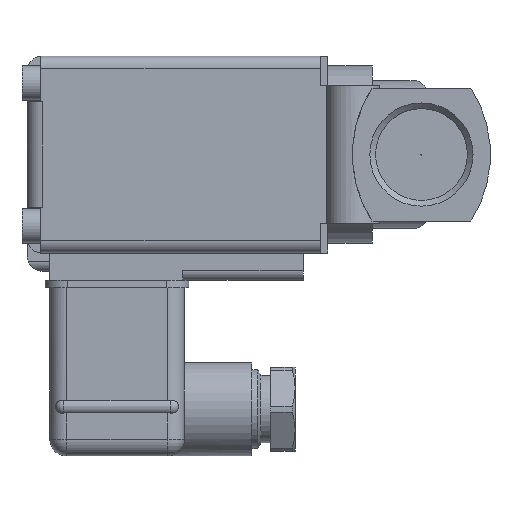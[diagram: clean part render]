
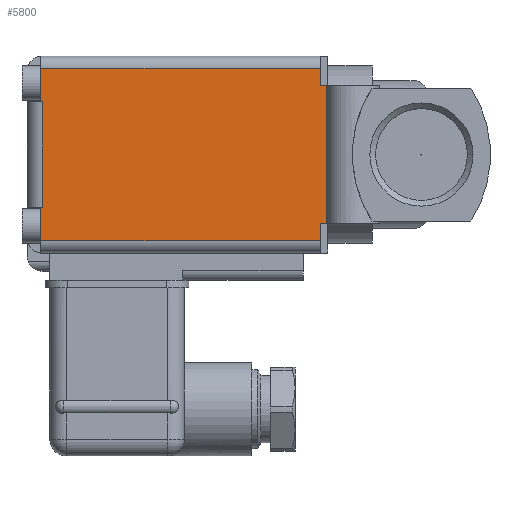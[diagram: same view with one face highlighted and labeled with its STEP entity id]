
A CAD part, left-side view. The second image highlights one B-rep face of the part: STEP entity #5800.
In plain terms, the highlighted planar face has unit normal (-1, 0, 0).
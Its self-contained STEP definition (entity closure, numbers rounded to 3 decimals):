
#466=ORIENTED_EDGE('',*,*,#1673,.T.);
#467=ORIENTED_EDGE('',*,*,#1674,.T.);
#468=ORIENTED_EDGE('',*,*,#1675,.T.);
#469=ORIENTED_EDGE('',*,*,#1676,.T.);
#470=ORIENTED_EDGE('',*,*,#1677,.F.);
#471=ORIENTED_EDGE('',*,*,#1678,.T.);
#472=ORIENTED_EDGE('',*,*,#1679,.F.);
#473=ORIENTED_EDGE('',*,*,#1680,.F.);
#474=ORIENTED_EDGE('',*,*,#1681,.F.);
#475=ORIENTED_EDGE('',*,*,#1682,.F.);
#476=ORIENTED_EDGE('',*,*,#1683,.F.);
#477=ORIENTED_EDGE('',*,*,#1684,.F.);
#1673=EDGE_CURVE('',#2263,#2264,#2633,.T.);
#1674=EDGE_CURVE('',#2264,#2265,#2634,.T.);
#1675=EDGE_CURVE('',#2265,#2266,#2635,.T.);
#1676=EDGE_CURVE('',#2266,#2267,#2636,.T.);
#1677=EDGE_CURVE('',#2268,#2267,#2637,.T.);
#1678=EDGE_CURVE('',#2268,#2269,#2638,.T.);
#1679=EDGE_CURVE('',#2270,#2269,#2639,.T.);
#1680=EDGE_CURVE('',#2271,#2270,#2640,.T.);
#1681=EDGE_CURVE('',#2272,#2271,#2641,.T.);
#1682=EDGE_CURVE('',#2273,#2272,#2642,.T.);
#1683=EDGE_CURVE('',#2274,#2273,#2643,.T.);
#1684=EDGE_CURVE('',#2263,#2274,#2644,.T.);
#2263=VERTEX_POINT('',#8056);
#2264=VERTEX_POINT('',#8057);
#2265=VERTEX_POINT('',#8059);
#2266=VERTEX_POINT('',#8061);
#2267=VERTEX_POINT('',#8063);
#2268=VERTEX_POINT('',#8065);
#2269=VERTEX_POINT('',#8067);
#2270=VERTEX_POINT('',#8069);
#2271=VERTEX_POINT('',#8071);
#2272=VERTEX_POINT('',#8073);
#2273=VERTEX_POINT('',#8075);
#2274=VERTEX_POINT('',#8077);
#2633=LINE('',#8055,#3035);
#2634=LINE('',#8058,#3036);
#2635=LINE('',#8060,#3037);
#2636=LINE('',#8062,#3038);
#2637=LINE('',#8064,#3039);
#2638=LINE('',#8066,#3040);
#2639=LINE('',#8068,#3041);
#2640=LINE('',#8070,#3042);
#2641=LINE('',#8072,#3043);
#2642=LINE('',#8074,#3044);
#2643=LINE('',#8076,#3045);
#2644=LINE('',#8078,#3046);
#3035=VECTOR('',#6640,1000.);
#3036=VECTOR('',#6641,1000.);
#3037=VECTOR('',#6642,1000.);
#3038=VECTOR('',#6643,1000.);
#3039=VECTOR('',#6644,1000.);
#3040=VECTOR('',#6645,1000.);
#3041=VECTOR('',#6646,1000.);
#3042=VECTOR('',#6647,1000.);
#3043=VECTOR('',#6648,1000.);
#3044=VECTOR('',#6649,1000.);
#3045=VECTOR('',#6650,1000.);
#3046=VECTOR('',#6651,1000.);
#3389=EDGE_LOOP('',(#466,#467,#468,#469,#470,#471,#472,#473,#474,#475,#476,
#477));
#3667=FACE_BOUND('',#3389,.T.);
#3927=PLANE('',#6079);
#5800=ADVANCED_FACE('',(#3667),#3927,.T.);
#6079=AXIS2_PLACEMENT_3D('',#8054,#6638,#6639);
#6638=DIRECTION('',(-1.,0.,0.));
#6639=DIRECTION('',(0.,0.,1.));
#6640=DIRECTION('',(0.,1.,0.));
#6641=DIRECTION('',(0.,0.,-1.));
#6642=DIRECTION('',(0.,-1.,0.));
#6643=DIRECTION('',(0.,0.,-1.));
#6644=DIRECTION('',(0.,-1.,0.));
#6645=DIRECTION('',(0.,0.,-1.));
#6646=DIRECTION('',(0.,1.,0.));
#6647=DIRECTION('',(0.,0.,-1.));
#6648=DIRECTION('',(0.,1.,0.));
#6649=DIRECTION('',(0.,0.,-1.));
#6650=DIRECTION('',(0.,-1.,0.));
#6651=DIRECTION('',(0.,0.,-1.));
#8054=CARTESIAN_POINT('',(-20.,-5.,-20.));
#8055=CARTESIAN_POINT('',(-20.,-5.,17.5));
#8056=CARTESIAN_POINT('',(-20.,-3.5,17.5));
#8057=CARTESIAN_POINT('',(-20.,53.3,17.5));
#8058=CARTESIAN_POINT('',(-20.,53.3,-20.));
#8059=CARTESIAN_POINT('',(-20.,53.3,10.7));
#8060=CARTESIAN_POINT('',(-20.,58.,10.7));
#8061=CARTESIAN_POINT('',(-20.,53.,10.7));
#8062=CARTESIAN_POINT('',(-20.,53.,10.7));
#8063=CARTESIAN_POINT('',(-20.,53.,-10.7));
#8064=CARTESIAN_POINT('',(-20.,58.,-10.7));
#8065=CARTESIAN_POINT('',(-20.,53.3,-10.7));
#8066=CARTESIAN_POINT('',(-20.,53.3,-20.));
#8067=CARTESIAN_POINT('',(-20.,53.3,-17.5));
#8068=CARTESIAN_POINT('',(-20.,-5.,-17.5));
#8069=CARTESIAN_POINT('',(-20.,-3.5,-17.5));
#8070=CARTESIAN_POINT('',(-20.,-3.5,-20.));
#8071=CARTESIAN_POINT('',(-20.,-3.5,-14.));
#8072=CARTESIAN_POINT('',(-20.,-5.,-14.));
#8073=CARTESIAN_POINT('',(-20.,-4.708,-14.));
#8074=CARTESIAN_POINT('',(-20.,-4.708,14.));
#8075=CARTESIAN_POINT('',(-20.,-4.708,14.));
#8076=CARTESIAN_POINT('',(-20.,-5.,14.));
#8077=CARTESIAN_POINT('',(-20.,-3.5,14.));
#8078=CARTESIAN_POINT('',(-20.,-3.5,-20.));
